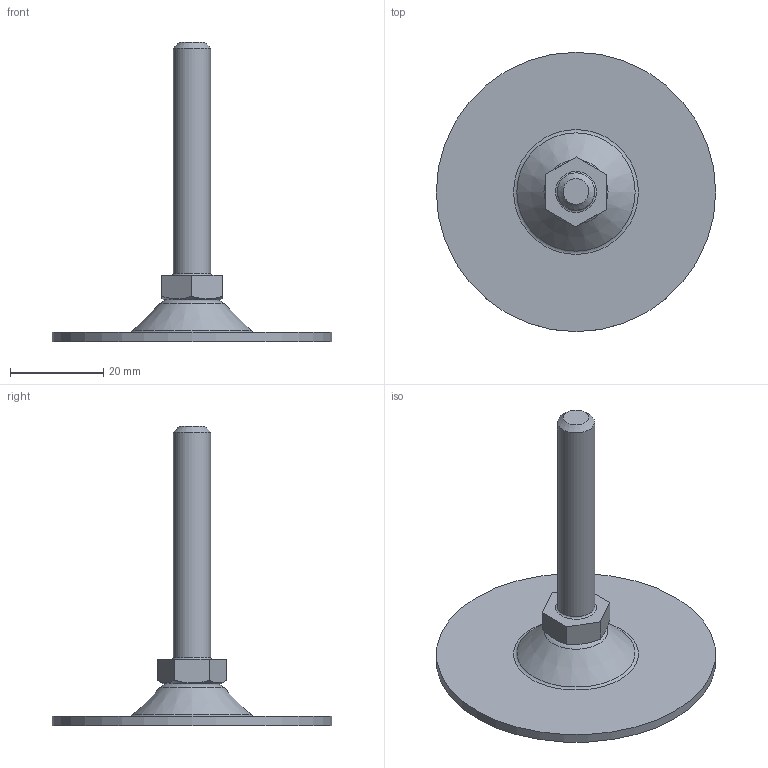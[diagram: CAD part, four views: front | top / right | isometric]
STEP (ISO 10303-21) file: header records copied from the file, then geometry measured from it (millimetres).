
FILE_DESCRIPTION(('STEP AP203'), '1');
FILE_NAME('A00050.1060816', '', ('UNSPECIFIED'), ('UNSPECIFIED'), 'C3D Converter', 'C3D Toolkit', '');
FILE_SCHEMA(('CONFIG_CONTROL_DESIGN'));
Length unit declared in the file: millimetre
Products named in the file (4): A00050.1060850; A00050.1160
Assembly tree (3 placements, depth 2):
  A00050.1060850
    A00050.1160
    (unnamed)
    (unnamed)
Bounding box: 60 x 60 x 64.26 mm (x, y, z)
Volume: 9253.9 mm3; surface area: 8519.6 mm2
Topology: 3 solids, 3 shells, 58 faces, 130 edges, 82 vertices
Faces by surface type: plane 28, torus 8, bspline 8, cone 7, cylinder 6, sphere 1
Full cylindrical faces by diameter (mm): 3.3 x1, 4 x1, 4.5 x1, 8 x2, 60 x1
Entity records: 2171 total; most frequent: CARTESIAN_POINT 784, DIRECTION 242, ORIENTED_EDGE 214, EDGE_CURVE 107, AXIS2_PLACEMENT_3D 95, EDGE_LOOP 86, VERTEX_POINT 81, ADVANCED_FACE 58
